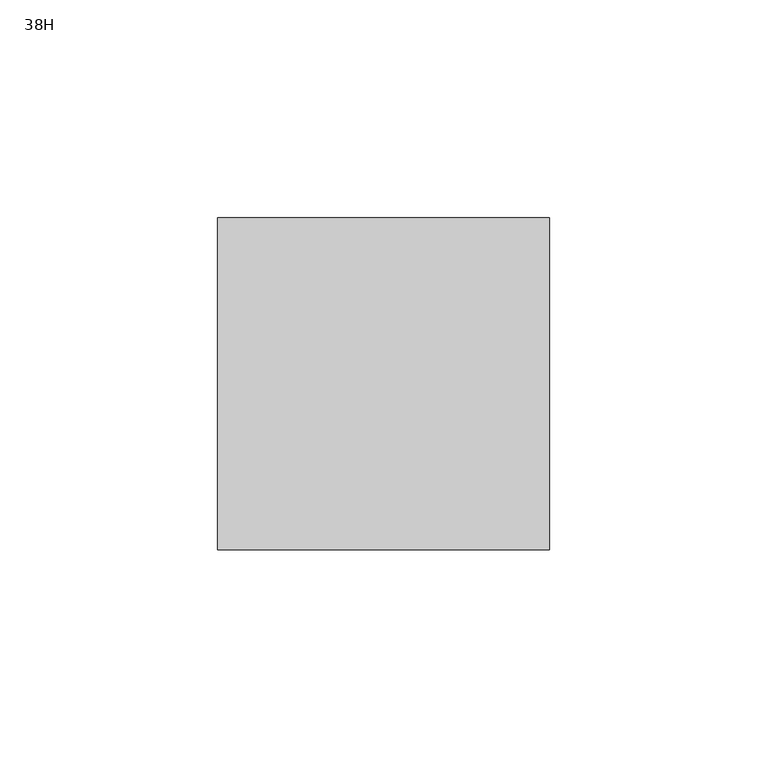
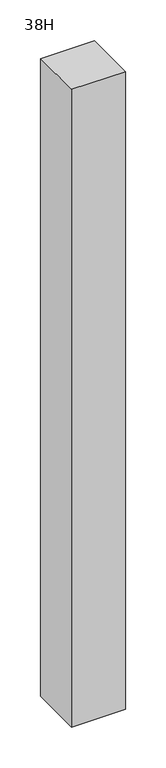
"""IFC4 building model written with IfcOpenShell, lengths in millimetres: furniture geometry, Steelcase - Montage - Junction - L Square - Same-Height : 38H."""

from ifc_helpers import new_model, si_unit, frame, origin, place, context, project, spatial, polyline, outline, extrude, source, transform, mapped, element, save


def furniture_38h_13bdd9f9(model_context):
    return source(origin(), model_context, "Body", "SweptSolid", [
        extrude(outline(polyline([(533.4, -38.1000015), (457.2, -38.1000015), (457.2, 38.1000015), (533.4, 38.1000015), (533.4, -38.1000015)])), frame((0.0, 0.0, 4.064), z_axis=(0.0, 0.0, 1.0), x_axis=(1.0, 0.0, 0.0)), (0.0, 0.0, 1.0), 954.786),
    ])


if __name__ == "__main__":
    model = new_model("IFC4")
    model_context = context("Model", 3, world=origin())
    ifc_project = project(units=[si_unit("LENGTHUNIT", "METRE", prefix="MILLI")], contexts=[model_context])
    site = spatial("IfcSite", under=ifc_project)
    building = spatial("IfcBuilding", under=site)
    placement = place(None, origin())
    furniture_38h_shape = furniture_38h_13bdd9f9(model_context)
    element("IfcFurniture", 1, ObjectType="Steelcase - Montage - Junction - L Square - Same-Height : 38H", at=placement, inside=building, context=model_context, shape_type="MappedRepresentation", body=[
        mapped(furniture_38h_shape, transform((0.0, 0.0, 0.0), x_axis=(1.0, 0.0, 0.0), y_axis=(0.0, 1.0, 0.0), z_axis=(0.0, 0.0, 1.0))),
    ])
    save(model, "model.ifc")
